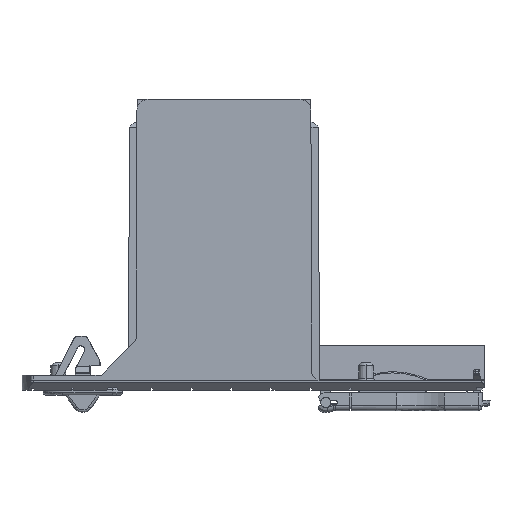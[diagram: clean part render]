
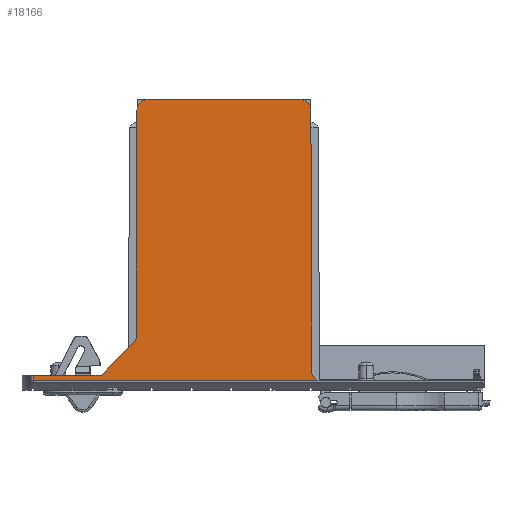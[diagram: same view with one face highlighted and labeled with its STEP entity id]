
A CAD part, top view. The second image highlights one B-rep face of the part: STEP entity #18166.
In plain terms, the highlighted planar face has unit normal (0, 0, 1).
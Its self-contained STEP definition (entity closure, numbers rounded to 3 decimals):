
#3340=DIRECTION('',(0.,1.,0.));
#3341=VECTOR('',#3340,30.526);
#3342=CARTESIAN_POINT('',(-58.56,-11.819,0.));
#3343=LINE('',#3342,#3341);
#4885=DIRECTION('',(1.,0.,0.));
#4886=VECTOR('',#4885,1.);
#4887=CARTESIAN_POINT('',(-3.,-34.995,0.));
#4888=LINE('',#4887,#4886);
#4889=DIRECTION('',(0.,1.,0.));
#4890=VECTOR('',#4889,13.689);
#4891=CARTESIAN_POINT('',(-3.,-34.995,0.));
#4892=LINE('',#4891,#4890);
#4893=DIRECTION('',(-1.,0.004,0.));
#4894=VECTOR('',#4893,46.285);
#4895=CARTESIAN_POINT('',(-10.035,-14.27,0.));
#4896=LINE('',#4895,#4894);
#4897=CARTESIAN_POINT('',(-56.31,-11.819,0.));
#4898=DIRECTION('',(0.,0.,1.));
#4899=DIRECTION('',(-1.,0.,0.));
#4900=AXIS2_PLACEMENT_3D('',#4897,#4898,#4899);
#4902=CARTESIAN_POINT('',(-56.31,18.708,0.));
#4903=DIRECTION('',(0.,0.,1.));
#4904=DIRECTION('',(-0.004,1.,0.));
#4905=AXIS2_PLACEMENT_3D('',#4902,#4903,#4904);
#4907=DIRECTION('',(-1.,-0.004,0.));
#4908=VECTOR('',#4907,53.316);
#4909=CARTESIAN_POINT('',(-3.004,21.19,0.));
#4910=LINE('',#4909,#4908);
#4911=DIRECTION('',(-0.707,-0.707,0.));
#4912=VECTOR('',#4911,1.42);
#4913=CARTESIAN_POINT('',(-2.,22.195,0.));
#4914=LINE('',#4913,#4912);
#4915=CARTESIAN_POINT('',(-2.,-34.995,0.));
#4921=DIRECTION('',(0.,-1.,0.));
#4922=VECTOR('',#4921,57.19);
#4923=CARTESIAN_POINT('',(-2.,22.195,0.));
#4924=LINE('',#4923,#4922);
#4945=DIRECTION('',(0.707,-0.707,0.));
#4946=VECTOR('',#4945,9.949);
#4947=CARTESIAN_POINT('',(-10.035,-14.27,0.));
#4948=LINE('',#4947,#4946);
#10272=CARTESIAN_POINT('',(-58.56,-11.819,0.));
#10274=VERTEX_POINT('',#10272);
#10276=CARTESIAN_POINT('',(-58.56,18.708,0.));
#10278=VERTEX_POINT('',#10276);
#10367=CARTESIAN_POINT('',(-56.32,20.957,0.));
#10368=VERTEX_POINT('',#10367);
#10386=CARTESIAN_POINT('',(-56.32,-14.068,0.));
#10387=VERTEX_POINT('',#10386);
#10582=VERTEX_POINT('',#4915);
#10588=CARTESIAN_POINT('',(-2.,22.195,0.));
#10589=VERTEX_POINT('',#10588);
#10591=CARTESIAN_POINT('',(-3.,-34.995,0.));
#10593=VERTEX_POINT('',#10591);
#10740=CARTESIAN_POINT('',(-3.004,21.19,0.));
#10741=VERTEX_POINT('',#10740);
#10742=CARTESIAN_POINT('',(-10.035,-14.27,0.));
#10743=CARTESIAN_POINT('',(-3.,-21.306,0.));
#10744=VERTEX_POINT('',#10742);
#10745=VERTEX_POINT('',#10743);
#18143=CARTESIAN_POINT('',(-3.,-33.28,0.));
#18144=DIRECTION('',(0.,0.,1.));
#18145=DIRECTION('',(1.,0.,0.));
#18146=AXIS2_PLACEMENT_3D('',#18143,#18144,#18145);
#18147=PLANE('',#18146);
#18149=ORIENTED_EDGE('',*,*,#18148,.T.);
#18150=ORIENTED_EDGE('',*,*,#18136,.F.);
#18151=ORIENTED_EDGE('',*,*,#15909,.T.);
#18153=ORIENTED_EDGE('',*,*,#18152,.F.);
#18155=ORIENTED_EDGE('',*,*,#18154,.T.);
#18157=ORIENTED_EDGE('',*,*,#18156,.F.);
#18158=ORIENTED_EDGE('',*,*,#15705,.T.);
#18160=ORIENTED_EDGE('',*,*,#18159,.F.);
#18161=ORIENTED_EDGE('',*,*,#14507,.F.);
#18163=ORIENTED_EDGE('',*,*,#18162,.F.);
#18164=EDGE_LOOP('',(#18149,#18150,#18151,#18153,#18155,#18157,#18158,#18160,
#18161,#18163));
#18165=FACE_OUTER_BOUND('',#18164,.F.);
#18166=ADVANCED_FACE('',(#18165),#18147,.T.);
#4901=CIRCLE('',#4900,2.25);
#4906=CIRCLE('',#4905,2.25);
#14507=EDGE_CURVE('',#10741,#10368,#4910,.T.);
#15705=EDGE_CURVE('',#10274,#10278,#3343,.T.);
#15909=EDGE_CURVE('',#10593,#10745,#4892,.T.);
#18136=EDGE_CURVE('',#10593,#10582,#4888,.T.);
#18148=EDGE_CURVE('',#10589,#10582,#4924,.T.);
#18152=EDGE_CURVE('',#10744,#10745,#4948,.T.);
#18154=EDGE_CURVE('',#10744,#10387,#4896,.T.);
#18156=EDGE_CURVE('',#10274,#10387,#4901,.T.);
#18159=EDGE_CURVE('',#10368,#10278,#4906,.T.);
#18162=EDGE_CURVE('',#10589,#10741,#4914,.T.);
